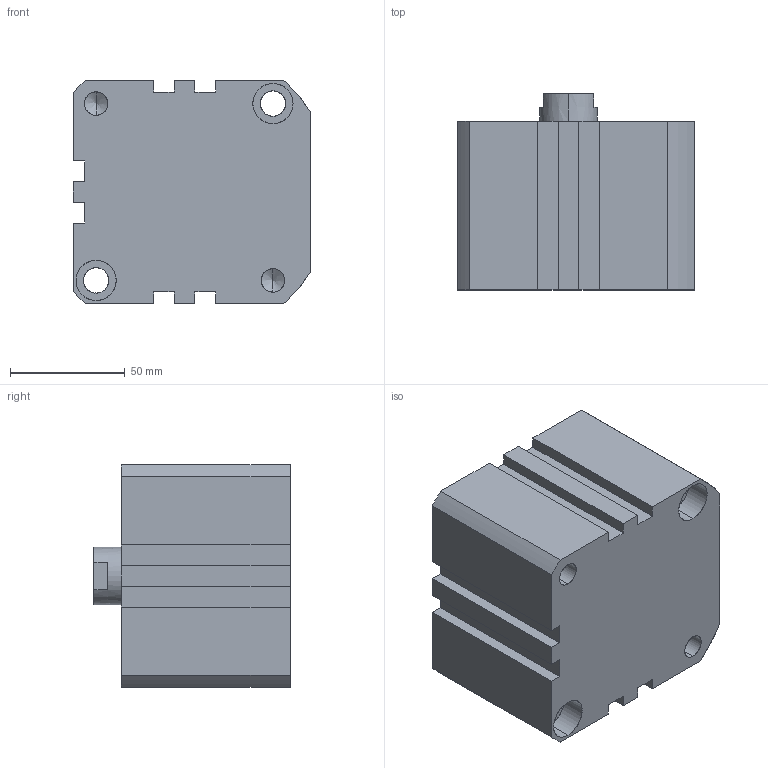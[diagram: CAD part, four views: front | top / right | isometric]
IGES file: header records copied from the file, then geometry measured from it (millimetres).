
Start section: SolidWorks IGES file using analytic representation for surfaces
Global section: file name: C:\Users\Toshiba\Desktop\XG#2-80D-10.IGS; native system: SolidWorks 2014; preprocessor: SolidWorks 2014; author: Toshiba; date: 160524.095405; units: millimetre
Bounding box: 103.5 x 85.5 x 97 mm (x, y, z)
Surface area: 65468.3 mm2 (no closed solid volume)
Topology: 0 solids, 0 shells, 111 faces, 1863 edges, 1849 vertices
Faces by surface type: revolution 65, bspline 46
